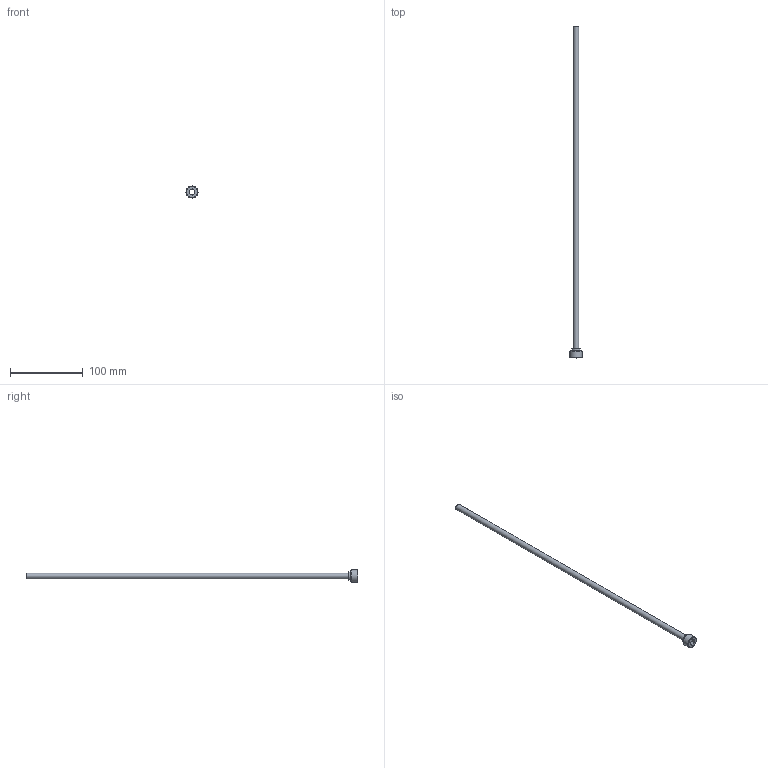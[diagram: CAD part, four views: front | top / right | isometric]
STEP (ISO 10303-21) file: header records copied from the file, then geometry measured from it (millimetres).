
FILE_DESCRIPTION(/* description */ (''),/* implementation_level */ '2;1');
FILE_NAME(/* name */ 'C:/Users/drich/Desktop/PT38-312-18 v1.step',/* time_stamp */ '2019-12-27T15:54:09-06:00',/* author */ (''),/* organization */ (''),/* preprocessor_version */ 'ST-DEVELOPER v18',/* originating_system */ 'Autodesk Translation Framework v8.12.0.6',/* authorisation */ '');
FILE_SCHEMA (('AUTOMOTIVE_DESIGN { 1 0 10303 214 3 1 1 }'));
Length unit declared in the file: inch
Products named in the file (1): PT38-312-18
Bounding box: 16.54 x 457.2 x 16.54 mm (x, y, z)
Volume: 5071.7 mm3; surface area: 22525.5 mm2
Topology: 1 solids, 1 shells, 19 faces, 48 edges, 34 vertices
Faces by surface type: plane 11, cylinder 4, torus 2, cone 2
Full cylindrical faces by diameter (mm): 7.315 x1, 7.925 x1, 11.938 x1, 16.537 x1
Entity records: 633 total; most frequent: DIRECTION 112, CARTESIAN_POINT 102, ORIENTED_EDGE 96, EDGE_CURVE 48, AXIS2_PLACEMENT_3D 44, VERTEX_POINT 34, CIRCLE 24, EDGE_LOOP 24
